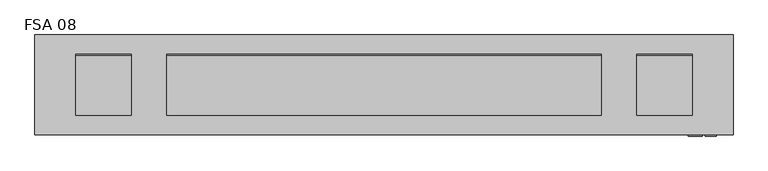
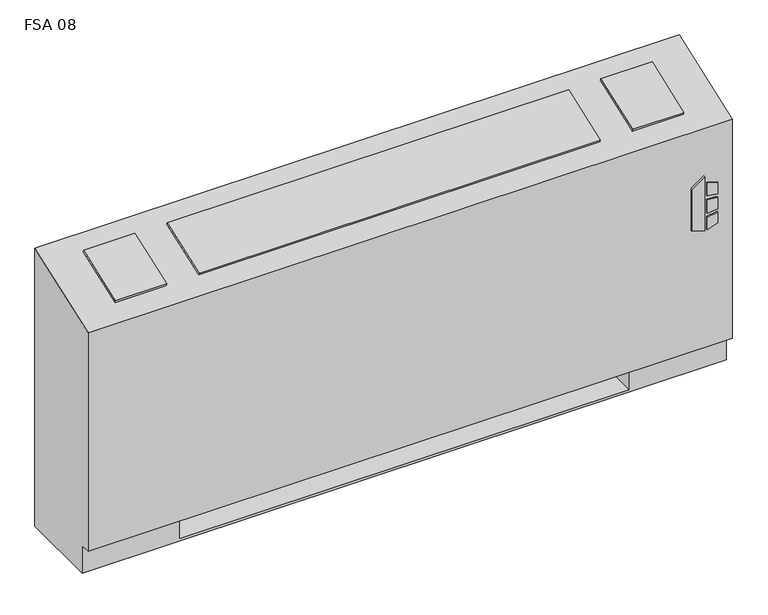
"""IFC4 building model written with IfcOpenShell, lengths in millimetres: proxy geometry, Vertical_Fan_Coil_Unit_-_FSA_-_IEC_-_4-Pipe_TS-FR_RH_2022 : FSA 08."""

import ifcopenshell
import ifcopenshell.guid

model = None  # the IFC model being written
_history = None  # IfcOwnerHistory: only IFC2X3 demands one
_inside = {}  # id of a spatial element -> (the spatial element, [elements in it])
_under = {}  # id of a project, library or spatial element -> (it, [spatial elements below it])
_declared = {}  # id of a project -> (the project, [libraries it declares])
_typed = {}  # id of a type object -> (the type object, [elements of that type])
_made_of = {}  # id of a material, layer set ... -> (it, [elements and type objects made of it])


def new_model(schema):
    """Start an empty IFC model of exactly this schema.

    Asked for "IFC4X3", IfcOpenShell would pick the latest addendum, in which some entities
    have other attributes; the version numbers below select the first issue.
    IFC2X3 requires an IfcOwnerHistory on every rooted entity: one is made here for all.
    """
    global model, _history
    if schema == "IFC4X3":
        model = ifcopenshell.file(schema_version=(4, 3, 0, 0))
    else:
        model = ifcopenshell.file(schema=schema)
    _inside.clear()
    _under.clear()
    _declared.clear()
    _typed.clear()
    _made_of.clear()
    _history = None
    if model.schema == "IFC2X3":
        org = make("IfcOrganization", Name="unknown")
        user = make(
            "IfcPersonAndOrganization",
            ThePerson=make("IfcPerson", FamilyName="unknown"),
            TheOrganization=org,
        )
        app = make(
            "IfcApplication",
            ApplicationDeveloper=org,
            Version="unknown",
            ApplicationFullName="unknown",
            ApplicationIdentifier="unknown",
        )
        _history = make(
            "IfcOwnerHistory",
            OwningUser=user,
            OwningApplication=app,
            ChangeAction="ADDED",
            CreationDate=0,
        )
    return model


def make(cls, **values):
    """One entity of the class cls with the attributes given. An attribute that is None is left unset."""
    return model.create_entity(
        cls, **{name: value for name, value in values.items() if value is not None}
    )


def rooted(cls, **values):
    """An entity with a GlobalId (a new one), such as an element, a storey or a relation."""
    return make(cls, GlobalId=ifcopenshell.guid.new(), OwnerHistory=_history, **values)


def si_unit(unit_type, name, prefix=None):
    """IfcSIUnit, for example si_unit("LENGTHUNIT", "METRE", prefix="MILLI")."""
    return make("IfcSIUnit", UnitType=unit_type, Prefix=prefix, Name=name)


def assignment(units):
    """IfcUnitAssignment: the units of a project."""
    return None if units is None else make("IfcUnitAssignment", Units=units)


def point(xyz):
    """IfcCartesianPoint."""
    return None if xyz is None else make("IfcCartesianPoint", Coordinates=xyz)


def direction(xyz):
    """IfcDirection."""
    return None if xyz is None else make("IfcDirection", DirectionRatios=xyz)


def frame(location, z_axis=None, x_axis=None):
    """IfcAxis2Placement3D, a coordinate frame: its origin and axes. An axis left out is left unset."""
    return make(
        "IfcAxis2Placement3D",
        Location=point(location),
        Axis=direction(z_axis),
        RefDirection=direction(x_axis),
    )


def frame_2d(location, x_axis=None):
    """IfcAxis2Placement2D, a coordinate frame in the plane: its origin and x axis."""
    return make(
        "IfcAxis2Placement2D", Location=point(location), RefDirection=direction(x_axis)
    )


def origin():
    """The frame at (0, 0, 0) with its axes left unset."""
    return frame((0.0, 0.0, 0.0))


def place(relative_to, where):
    """IfcLocalPlacement: puts the frame where relative to a parent placement (None: the world)."""
    return make(
        "IfcLocalPlacement", PlacementRelTo=relative_to, RelativePlacement=where
    )


def context(
    kind, dimensions, precision=None, world=None, true_north=None, identifier=None
):
    """IfcGeometricRepresentationContext, for example the 3D "Model" context."""
    return make(
        "IfcGeometricRepresentationContext",
        ContextIdentifier=identifier,
        ContextType=kind,
        CoordinateSpaceDimension=dimensions,
        Precision=precision,
        WorldCoordinateSystem=world,
        TrueNorth=true_north,
    )


def project(units=None, contexts=None):
    """IfcProject with its units and contexts."""
    return rooted(
        "IfcProject",
        Name="project",
        RepresentationContexts=contexts,
        UnitsInContext=assignment(units),
    )


def spatial(cls, under=None, at=None, **own):
    """A site, building, storey or space (cls), placed at a placement, below another one or the project."""
    s = rooted(cls, ObjectPlacement=at, **own)
    if under is not None:
        _under.setdefault(under.id(), (under, []))[1].append(s)
    return s


def polyline(points):
    """IfcPolyline through the points."""
    return make("IfcPolyline", Points=[point(p) for p in points])


def circle_curve(where, radius):
    """IfcCircle in the frame where."""
    return make("IfcCircle", Position=where, Radius=radius)


def trimmed(basis, trim1, trim2, sense, master):
    """IfcTrimmedCurve: the piece of a basis curve between two trims."""
    return make(
        "IfcTrimmedCurve",
        BasisCurve=basis,
        Trim1=trim1,
        Trim2=trim2,
        SenseAgreement=sense,
        MasterRepresentation=master,
    )


def segment(curve, same_sense, transition):
    """IfcCompositeCurveSegment."""
    return make(
        "IfcCompositeCurveSegment",
        Transition=transition,
        SameSense=same_sense,
        ParentCurve=curve,
    )


def composite_curve(segments, self_intersect=None):
    """IfcCompositeCurve: segments joined end to end."""
    return make("IfcCompositeCurve", Segments=segments, SelfIntersect=self_intersect)


def outline(outer, holes=None, kind="AREA"):
    """IfcArbitraryClosedProfileDef: a profile drawn as a closed curve; with holes, ...WithVoids."""
    if holes is None:
        return make("IfcArbitraryClosedProfileDef", ProfileType=kind, OuterCurve=outer)
    return make(
        "IfcArbitraryProfileDefWithVoids",
        ProfileType=kind,
        OuterCurve=outer,
        InnerCurves=holes,
    )


def extrude(swept, where, along, depth):
    """IfcExtrudedAreaSolid: the profile swept, set in the frame where, extruded along a direction by depth."""
    return make(
        "IfcExtrudedAreaSolid",
        SweptArea=swept,
        Position=where,
        ExtrudedDirection=direction(along),
        Depth=depth,
    )


def shape(context_of_items, identifier, shape_type, items):
    """IfcShapeRepresentation: the items that make up one representation, for example the "Body"."""
    return make(
        "IfcShapeRepresentation",
        ContextOfItems=context_of_items,
        RepresentationIdentifier=identifier,
        RepresentationType=shape_type,
        Items=items,
    )


def source(mapping_origin, context_of_items, identifier, shape_type, items):
    """IfcRepresentationMap: a shape defined once, which mapped items show again and again."""
    return make(
        "IfcRepresentationMap",
        MappingOrigin=mapping_origin,
        MappedRepresentation=shape(context_of_items, identifier, shape_type, items),
    )


def transform(
    local_origin,
    x_axis=None,
    y_axis=None,
    z_axis=None,
    scale=None,
    scale2=None,
    scale3=None,
    uniform=True,
):
    """IfcCartesianTransformationOperator3D, or its non-uniform kind. x_axis, y_axis, z_axis: its Axis1, 2, 3."""
    if uniform:
        return make(
            "IfcCartesianTransformationOperator3D",
            Axis1=direction(x_axis),
            Axis2=direction(y_axis),
            LocalOrigin=point(local_origin),
            Scale=scale,
            Axis3=direction(z_axis),
        )
    return make(
        "IfcCartesianTransformationOperator3DnonUniform",
        Axis1=direction(x_axis),
        Axis2=direction(y_axis),
        LocalOrigin=point(local_origin),
        Scale=scale,
        Axis3=direction(z_axis),
        Scale2=scale2,
        Scale3=scale3,
    )


def mapped(mapping_source, mapping_target):
    """IfcMappedItem: shows the shape of a source again, moved by a transform."""
    return make(
        "IfcMappedItem", MappingSource=mapping_source, MappingTarget=mapping_target
    )


def made_of(thing, what):
    """Note that an element or type object is made of a material, layer set ...; save() writes the relation."""
    if what is not None:
        _made_of.setdefault(what.id(), (what, []))[1].append(thing)
    return thing


def element(
    cls,
    number,
    at=None,
    inside=None,
    cuts=None,
    type_object=None,
    material=None,
    context=None,
    identifier="Body",
    shape_type=None,
    held_by="IfcProductDefinitionShape",
    body=None,
    shapes=None,
    **own,
):
    """One element of the class cls, such as IfcWall. Its Tag is "e" and its number.

    at: its placement. inside: the storey or other place that contains it. cuts: it is an
    opening in that element (IfcRelVoidsElement). A single representation is given by context,
    identifier, shape_type and body (its items); several are given by shapes. held_by: the class
    of the entity that holds the representations. save() writes the other relations.
    """
    e = rooted(cls, Tag="e%d" % number, ObjectPlacement=at, **own)
    if body is not None:
        shapes = [shape(context, identifier, shape_type, body)]
    if shapes is not None:
        e.Representation = make(held_by, Representations=shapes)
    if inside is not None:
        _inside.setdefault(inside.id(), (inside, []))[1].append(e)
    if cuts is not None:
        rooted(
            "IfcRelVoidsElement", RelatingBuildingElement=cuts, RelatedOpeningElement=e
        )
    if type_object is not None:
        _typed.setdefault(type_object.id(), (type_object, []))[1].append(e)
    return made_of(e, material)


def aggregate(whole, parts):
    """IfcRelAggregates: a whole, such as a stair, and the parts it consists of."""
    return rooted("IfcRelAggregates", RelatingObject=whole, RelatedObjects=parts)


def save(model, path):
    """Write the relations noted so far, then the file.

    IfcRelAggregates (storeys below a building ...), IfcRelContainedInSpatialStructure (elements
    in a storey), IfcRelDefinesByType, IfcRelAssociatesMaterial and IfcRelDeclares: one each for
    every whole, place, type object, material and project.
    """
    for whole, parts in _under.values():
        aggregate(whole, parts)
    for where, things in _inside.values():
        rooted(
            "IfcRelContainedInSpatialStructure",
            RelatedElements=things,
            RelatingStructure=where,
        )
    for kind, things in _typed.values():
        rooted("IfcRelDefinesByType", RelatedObjects=things, RelatingType=kind)
    for what, things in _made_of.values():
        rooted("IfcRelAssociatesMaterial", RelatedObjects=things, RelatingMaterial=what)
    for by, libraries in _declared.values():
        rooted("IfcRelDeclares", RelatingContext=by, RelatedDefinitions=libraries)
    model.write(path)


def plane_surface(at):
    """IfcPlane: the flat surface through the origin of the frame at, square to its z axis."""
    return make("IfcPlane", Position=at)


def revolved_surface(curve, axis_point, axis_direction):
    """IfcSurfaceOfRevolution: the curve turned about the line through axis_point along axis_direction."""
    return make(
        "IfcSurfaceOfRevolution",
        SweptCurve=make("IfcArbitraryOpenProfileDef", ProfileType="CURVE", Curve=curve),
        AxisPosition=make("IfcAxis1Placement", Location=point(axis_point), Axis=direction(axis_direction)),
    )


def advanced_brep(points, edges, surfaces, faces):
    """IfcAdvancedBrep: a solid bounded by faces that lie on surfaces and meet in shared edges.

    An edge is (start, end): straight between two places in points (the first is 0);
    or (start, end, curve); or (start, end, curve, False) where it runs against its curve.
    A face is (place in surfaces, loops), or (place, loops, False) where it looks against
    its surface's normal. A loop lists edges by number (the first is 1), with a minus sign
    where the edge is run from its end to its start. The first loop is the outer one.
    """
    corners = [point(p) for p in points]
    vertices = [make("IfcVertexPoint", VertexGeometry=c) for c in corners]
    made = []
    for start, end, *more in edges:
        made.append(
            make(
                "IfcEdgeCurve",
                EdgeStart=vertices[start],
                EdgeEnd=vertices[end],
                EdgeGeometry=more[0] if more else make("IfcPolyline", Points=[corners[start], corners[end]]),
                SameSense=more[1] if len(more) > 1 else True,
            )
        )
    hull = []
    for where, loops, *sense in faces:
        bounds = []
        for j, loop in enumerate(loops):
            ring = [make("IfcOrientedEdge", EdgeElement=made[abs(k) - 1], Orientation=k > 0) for k in loop]
            bounds.append(
                make(
                    "IfcFaceOuterBound" if j == 0 else "IfcFaceBound",
                    Bound=make("IfcEdgeLoop", EdgeList=ring),
                    Orientation=True,
                )
            )
        hull.append(make("IfcAdvancedFace", Bounds=bounds, FaceSurface=surfaces[where], SameSense=sense[0] if sense else True))
    return make("IfcAdvancedBrep", Outer=make("IfcClosedShell", CfsFaces=hull))


def fsa_08_1c3113d7(model_context):
    return source(origin(), model_context, "Body", "SolidModel", [
        extrude(outline(polyline([(391.6086829, 849.3868862), (381.6606126, 881.5602728), (523.831537, 881.5602728), (500.8095309, 849.3868862), (391.6086829, 849.3868862)])), frame((0.0, 12.7, 0.0), z_axis=(0.0, 1.0, 0.0), x_axis=(0.0, 0.0, 1.0)), (0.0, 0.0, 1.0), 3.175),
        extrude(outline(polyline([(470.6079683, 888.3186058), (467.4055757, 914.4), (496.6344168, 914.4), (504.6988318, 888.3186058), (470.6079683, 888.3186058)])), frame((0.0, 12.7, 0.0), z_axis=(0.0, 1.0, 0.0), x_axis=(0.0, 0.0, 1.0)), (0.0, 0.0, 1.0), 3.175),
        extrude(outline(polyline([(418.7444414, 914.4), (415.0789404, 888.3186058), (381.6606126, 888.3186058), (390.2948498, 914.4), (418.7444414, 914.4)])), frame((0.0, 12.7, 0.0), z_axis=(0.0, 1.0, 0.0), x_axis=(0.0, 0.0, 1.0)), (0.0, 0.0, 1.0), 3.175),
        extrude(outline(polyline([(458.0596028, 914.4), (460.3414292, 888.3186058), (424.4038806, 888.3186058), (427.1451456, 914.4), (458.0596028, 914.4)])), frame((0.0, 12.7, 0.0), z_axis=(0.0, 1.0, 0.0), x_axis=(0.0, 0.0, 1.0)), (0.0, 0.0, 1.0), 3.175),
        extrude(outline(polyline([(-527.05, 81.534), (-527.05, 223.266), (-406.4, 223.266), (-406.4, 81.534), (-527.05, 81.534)])), frame((0.0, 0.0, 327.025), z_axis=(0.0, 0.0, 1.0), x_axis=(1.0, 0.0, 0.0)), (0.0, 0.0, 1.0), 260.35),
        extrude(outline(composite_curve([segment(trimmed(circle_curve(frame_2d((774.7, 130.175)), 9.525), [point((765.175, 130.175))], [point((784.225, 130.175))], False, "CARTESIAN"), True, "CONTINUOUS"), segment(trimmed(circle_curve(frame_2d((774.7, 130.175)), 9.525), [point((784.225, 130.175))], [point((765.175, 130.175))], False, "CARTESIAN"), True, "CONTINUOUS")], self_intersect=False)), frame((0.0, 0.0, 101.6), z_axis=(0.0, 0.0, 1.0), x_axis=(1.0, 0.0, 0.0)), (0.0, 0.0, 1.0), 25.4),
        extrude(outline(polyline([(876.3, 196.85), (876.3, 63.5), (711.2, 63.5), (711.2, 196.85), (876.3, 196.85)])), frame((0.0, 0.0, 127.0), z_axis=(0.0, 0.0, 1.0), x_axis=(1.0, 0.0, 0.0)), (0.0, 0.0, 1.0), 50.8),
        extrude(outline(polyline([(0.0, -146.0500001), (0.0, 0.0), (127.0, 0.0), (127.0, -146.0500001), (0.0, -146.0500001)])), frame((-553.593, 200.4217127, 714.3418685), z_axis=(0.0, -0.3396444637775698, 0.9405538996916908), x_axis=(1.0, 0.0, 0.0)), (0.0, 0.0, 1.0), 6.35),
        extrude(outline(polyline([(0.0, -146.0500001), (0.0, 0.0), (996.95, 0.0), (996.95, -146.0500001), (0.0, -146.0500001)])), frame((650.875, 63.0538156, 664.7367945), z_axis=(0.0, -0.33964446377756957, 0.9405538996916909), x_axis=(-1.0, 0.0, 0.0)), (0.0, 0.0, 1.0), 6.35),
        extrude(outline(polyline([(0.0, -146.0500001), (0.0, 0.0), (127.0, 0.0), (127.0, -146.0500001), (0.0, -146.0500001)])), frame((858.393, 63.0538156, 664.7367945), z_axis=(0.0, -0.3396444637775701, 0.9405538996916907), x_axis=(-1.0, 0.0, 0.0)), (0.0, 0.0, 1.0), 6.35),
        extrude(outline(composite_curve([segment(trimmed(circle_curve(frame_2d((109.0168, 457.2)), 7.9375), [point((109.0168, 465.1375))], [point((109.0168, 449.2625))], False, "CARTESIAN"), True, "CONTINUOUS"), segment(trimmed(circle_curve(frame_2d((109.0168, 457.2)), 7.9375), [point((109.0168, 449.2625))], [point((109.0168, 465.1375))], False, "CARTESIAN"), True, "CONTINUOUS")], self_intersect=False)), frame((711.2, 0.0, 0.0), z_axis=(1.0, 0.0, 0.0), x_axis=(0.0, 1.0, 0.0)), (0.0, 0.0, 1.0), 50.8),
        extrude(outline(composite_curve([segment(trimmed(circle_curve(frame_2d((172.085, 460.0194)), 7.9375), [point((172.085, 467.9569))], [point((172.085, 452.0819))], False, "CARTESIAN"), True, "CONTINUOUS"), segment(trimmed(circle_curve(frame_2d((172.085, 460.0194)), 7.9375), [point((172.085, 452.0819))], [point((172.085, 467.9569))], False, "CARTESIAN"), True, "CONTINUOUS")], self_intersect=False)), frame((711.2, 0.0, 0.0), z_axis=(1.0, 0.0, 0.0), x_axis=(0.0, 1.0, 0.0)), (0.0, 0.0, 1.0), 50.8),
        extrude(outline(composite_curve([segment(trimmed(circle_curve(frame_2d((130.175, 554.99)), 7.9502), [point((130.175, 562.9402))], [point((130.175, 547.0398))], False, "CARTESIAN"), True, "CONTINUOUS"), segment(trimmed(circle_curve(frame_2d((130.175, 554.99)), 7.9502), [point((130.175, 547.0398))], [point((130.175, 562.9402))], False, "CARTESIAN"), True, "CONTINUOUS")], self_intersect=False)), frame((711.2, 0.0, 0.0), z_axis=(1.0, 0.0, 0.0), x_axis=(0.0, 1.0, 0.0)), (0.0, 0.0, 1.0), 50.8),
        extrude(outline(composite_curve([segment(trimmed(circle_curve(frame_2d((53.975, 416.56)), 7.9502), [point((53.975, 424.5102))], [point((53.975, 408.6098))], False, "CARTESIAN"), True, "CONTINUOUS"), segment(trimmed(circle_curve(frame_2d((53.975, 416.56)), 7.9502), [point((53.975, 408.6098))], [point((53.975, 424.5102))], False, "CARTESIAN"), True, "CONTINUOUS")], self_intersect=False)), frame((711.2, 0.0, 0.0), z_axis=(1.0, 0.0, 0.0), x_axis=(0.0, 1.0, 0.0)), (0.0, 0.0, 1.0), 50.8),
        advanced_brep(
        [(-647.7, 244.475, 0.0), (952.5, 244.475, 0.0), (952.5, 41.275, 0.0), (-647.7, 41.275, 0.0), (-647.7, 244.475, 730.25), (952.5, 244.475, 730.25), (711.2, 244.475, 73.025), (939.8, 244.475, 73.025), (939.8, 244.475, 654.05), (711.2, 244.475, 654.05), (711.2, 244.475, 414.8650565), (739.775, 244.475, 414.8650565), (739.775, 244.475, 385.2349435), (711.2, 244.475, 385.2349435), (711.2, 244.475, 287.3375), (739.775, 244.475, 287.3375), (739.775, 244.475, 258.7625), (711.2, 244.475, 258.7625), (711.2, 244.475, 141.2875), (739.775, 244.475, 141.2875), (739.775, 244.475, 112.7125), (711.2, 244.475, 112.7125), (-406.4, 244.475, 654.05), (-635.0, 244.475, 654.05), (-635.0, 244.475, 73.025), (-406.4, 244.475, 73.025), (-406.4, 244.475, 112.7125), (-434.975, 244.475, 112.7125), (-434.975, 244.475, 141.2875), (-406.4, 244.475, 141.2875), (-406.4, 244.475, 258.7625), (-434.975, 244.475, 258.7625), (-434.975, 244.475, 287.3375), (-406.4, 244.475, 287.3375), (-406.4, 244.475, 385.2349435), (-434.975, 244.475, 385.2349435), (-434.975, 244.475, 414.8650565), (-406.4, 244.475, 414.8650565), (729.4626, 244.475, 127.0), (718.3374, 244.475, 127.0), (729.4626, 244.475, 400.05), (718.3374, 244.475, 400.05), (729.4626, 244.475, 273.05), (718.3374, 244.475, 273.05), (-413.5374, 244.475, 127.0), (-424.6626, 244.475, 127.0), (-413.5374, 244.475, 273.05), (-424.6626, 244.475, 273.05), (-413.5374, 244.475, 400.05), (-424.6626, 244.475, 400.05), (-647.7, 41.275, 73.025), (-647.7, 15.875, 73.025), (-647.7, 15.875, 647.7), (952.5, 15.875, 73.025), (952.5, 15.875, 647.7), (952.5, 41.275, 73.025), (-406.4, 41.275, 73.025), (-406.4, 225.425, 73.025), (711.2, 225.425, 73.025), (711.2, 41.275, 73.025), (711.2, 41.275, 6.35), (-406.4, 41.275, 6.35), (711.2, 41.275, 654.05), (939.8, 41.275, 654.05), (939.8, 41.275, 73.025), (711.2, 41.275, 73.025), (-406.4, 41.275, 654.05), (-406.4, 41.275, 73.025), (-635.0, 41.275, 73.025), (-635.0, 41.275, 654.05), (711.2, 225.425, 73.025), (711.2, 238.125, 112.7125), (711.2, 238.125, 141.2875), (711.2, 238.125, 258.7625), (711.2, 238.125, 287.3375), (711.2, 238.125, 385.2349435), (711.2, 238.125, 414.8650565), (-406.4, 225.425, 73.025), (-406.4, 238.125, 414.8650565), (-406.4, 238.125, 385.2349435), (-406.4, 238.125, 287.3375), (-406.4, 238.125, 258.7625), (-406.4, 238.125, 141.2875), (-406.4, 238.125, 112.7125), (-406.4, 225.425, 6.35), (711.2, 225.425, 6.35), (739.775, 238.125, 112.7125), (739.775, 238.125, 141.2875), (718.3374, 238.125, 127.0), (729.4626, 238.125, 127.0), (739.775, 238.125, 258.7625), (739.775, 238.125, 287.3375), (718.3374, 238.125, 273.05), (729.4626, 238.125, 273.05), (739.775, 238.125, 385.2349435), (739.775, 238.125, 414.8650565), (718.3374, 238.125, 400.05), (729.4626, 238.125, 400.05), (-434.975, 238.125, 141.2875), (-434.975, 238.125, 112.7125), (-424.6626, 238.125, 127.0), (-413.5374, 238.125, 127.0), (-434.975, 238.125, 287.3375), (-434.975, 238.125, 258.7625), (-424.6626, 238.125, 273.05), (-413.5374, 238.125, 273.05), (-434.975, 238.125, 414.8650565), (-434.975, 238.125, 385.2349435), (-424.6626, 238.125, 400.05), (-413.5374, 238.125, 400.05)],
        [
            (0, 1),
            (1, 2),
            (2, 3),
            (3, 0),
            (0, 4),
            (4, 5),
            (5, 1),
            (6, 7),
            (7, 8),
            (8, 9),
            (9, 10),
            (10, 11),
            (11, 12),
            (12, 13),
            (13, 14),
            (14, 15),
            (15, 16),
            (16, 17),
            (17, 18),
            (18, 19),
            (19, 20),
            (20, 21),
            (21, 6),
            (22, 23),
            (23, 24),
            (24, 25),
            (25, 26),
            (26, 27),
            (27, 28),
            (28, 29),
            (29, 30),
            (30, 31),
            (31, 32),
            (32, 33),
            (33, 34),
            (34, 35),
            (35, 36),
            (36, 37),
            (37, 22),
            (38, 39, circle_curve(frame((723.9, 244.475, 127.0), z_axis=(0.0, -1.0, 0.0), x_axis=(-1.0, 0.0, 0.0)), 5.5626)),
            (39, 38, circle_curve(frame((723.9, 244.475, 127.0), z_axis=(0.0, -1.0, 0.0), x_axis=(-1.0, 0.0, 0.0)), 5.5626)),
            (40, 41, circle_curve(frame((723.9, 244.475, 400.05), z_axis=(0.0, -1.0, 0.0), x_axis=(-1.0, 0.0, 0.0)), 5.5626)),
            (41, 40, circle_curve(frame((723.9, 244.475, 400.05), z_axis=(0.0, -1.0, 0.0), x_axis=(-1.0, 0.0, 0.0)), 5.5626)),
            (42, 43, circle_curve(frame((723.9, 244.475, 273.05), z_axis=(0.0, -1.0, 0.0), x_axis=(-1.0, 0.0, 0.0)), 5.5626)),
            (43, 42, circle_curve(frame((723.9, 244.475, 273.05), z_axis=(0.0, -1.0, 0.0), x_axis=(-1.0, 0.0, 0.0)), 5.5626)),
            (44, 45, circle_curve(frame((-419.1, 244.475, 127.0), z_axis=(0.0, -1.0, 0.0), x_axis=(-1.0, 0.0, 0.0)), 5.5626)),
            (45, 44, circle_curve(frame((-419.1, 244.475, 127.0), z_axis=(0.0, -1.0, 0.0), x_axis=(-1.0, 0.0, 0.0)), 5.5626)),
            (46, 47, circle_curve(frame((-419.1, 244.475, 273.05), z_axis=(0.0, -1.0, 0.0), x_axis=(-1.0, 0.0, 0.0)), 5.5626)),
            (47, 46, circle_curve(frame((-419.1, 244.475, 273.05), z_axis=(0.0, -1.0, 0.0), x_axis=(-1.0, 0.0, 0.0)), 5.5626)),
            (48, 49, circle_curve(frame((-419.1, 244.475, 400.05), z_axis=(0.0, -1.0, 0.0), x_axis=(-1.0, 0.0, 0.0)), 5.5626)),
            (49, 48, circle_curve(frame((-419.1, 244.475, 400.05), z_axis=(0.0, -1.0, 0.0), x_axis=(-1.0, 0.0, 0.0)), 5.5626)),
            (3, 50),
            (50, 51),
            (51, 52),
            (52, 4),
            (51, 53),
            (53, 54),
            (54, 52),
            (5, 54),
            (53, 55),
            (55, 2),
            (50, 56),
            (56, 57),
            (57, 58),
            (58, 59),
            (59, 55),
            (59, 60),
            (60, 61),
            (61, 56),
            (62, 63),
            (63, 64),
            (64, 65),
            (65, 62),
            (66, 67),
            (67, 68),
            (68, 69),
            (69, 66),
            (65, 70),
            (70, 6),
            (21, 71),
            (71, 72),
            (72, 18),
            (17, 73),
            (73, 74),
            (74, 14),
            (13, 75),
            (75, 76),
            (76, 10),
            (9, 62),
            (64, 7),
            (63, 8),
            (69, 23),
            (22, 66),
            (68, 24),
            (67, 77),
            (77, 25),
            (37, 78),
            (78, 79),
            (79, 34),
            (33, 80),
            (80, 81),
            (81, 30),
            (29, 82),
            (82, 83),
            (83, 26),
            (57, 84),
            (84, 85),
            (85, 58),
            (85, 60),
            (84, 61),
            (71, 86),
            (86, 87),
            (87, 72),
            (88, 89, circle_curve(frame((723.9, 238.125, 127.0), z_axis=(0.0, 1.0, 0.0), x_axis=(-1.0, 0.0, 0.0)), 5.5626)),
            (89, 88, circle_curve(frame((723.9, 238.125, 127.0), z_axis=(0.0, 1.0, 0.0), x_axis=(-1.0, 0.0, 0.0)), 5.5626)),
            (73, 90),
            (90, 91),
            (91, 74),
            (92, 93, circle_curve(frame((723.9, 238.125, 273.05), z_axis=(0.0, 1.0, 0.0), x_axis=(-1.0, 0.0, 0.0)), 5.5626)),
            (93, 92, circle_curve(frame((723.9, 238.125, 273.05), z_axis=(0.0, 1.0, 0.0), x_axis=(-1.0, 0.0, 0.0)), 5.5626)),
            (75, 94),
            (94, 95),
            (95, 76),
            (96, 97, circle_curve(frame((723.9, 238.125, 400.05), z_axis=(0.0, 1.0, 0.0), x_axis=(-1.0, 0.0, 0.0)), 5.5626)),
            (97, 96, circle_curve(frame((723.9, 238.125, 400.05), z_axis=(0.0, 1.0, 0.0), x_axis=(-1.0, 0.0, 0.0)), 5.5626)),
            (98, 99),
            (99, 83),
            (82, 98),
            (100, 101, circle_curve(frame((-419.1, 238.125, 127.0), z_axis=(0.0, 1.0, 0.0), x_axis=(-1.0, 0.0, 0.0)), 5.5626)),
            (101, 100, circle_curve(frame((-419.1, 238.125, 127.0), z_axis=(0.0, 1.0, 0.0), x_axis=(-1.0, 0.0, 0.0)), 5.5626)),
            (102, 103),
            (103, 81),
            (80, 102),
            (104, 105, circle_curve(frame((-419.1, 238.125, 273.05), z_axis=(0.0, 1.0, 0.0), x_axis=(-1.0, 0.0, 0.0)), 5.5626)),
            (105, 104, circle_curve(frame((-419.1, 238.125, 273.05), z_axis=(0.0, 1.0, 0.0), x_axis=(-1.0, 0.0, 0.0)), 5.5626)),
            (106, 107),
            (107, 79),
            (78, 106),
            (108, 109, circle_curve(frame((-419.1, 238.125, 400.05), z_axis=(0.0, 1.0, 0.0), x_axis=(-1.0, 0.0, 0.0)), 5.5626)),
            (109, 108, circle_curve(frame((-419.1, 238.125, 400.05), z_axis=(0.0, 1.0, 0.0), x_axis=(-1.0, 0.0, 0.0)), 5.5626)),
            (87, 19),
            (86, 20),
            (91, 15),
            (90, 16),
            (95, 11),
            (94, 12),
            (28, 98),
            (99, 27),
            (32, 102),
            (103, 31),
            (36, 106),
            (107, 35),
            (88, 39),
            (38, 89),
            (96, 41),
            (40, 97),
            (92, 43),
            (42, 93),
            (100, 45),
            (44, 101),
            (104, 47),
            (46, 105),
            (108, 49),
            (48, 109),
        ],
        [
            plane_surface(frame((-647.7, 244.475, 0.0), z_axis=(0.0, 0.0, -1.0), x_axis=(1.0, 0.0, 0.0))),
            plane_surface(frame((952.5, 244.475, 730.25), z_axis=(0.0, 1.0, 0.0), x_axis=(0.0, 0.0, -1.0))),
            plane_surface(frame((-647.7, 244.475, 730.25), z_axis=(-1.0, 0.0, 0.0), x_axis=(0.0, 0.0, -1.0))),
            plane_surface(frame((-647.7, 15.875, 730.25), z_axis=(0.0, -1.0, 0.0), x_axis=(0.0, 0.0, -1.0))),
            plane_surface(frame((952.5, 15.875, 730.25), z_axis=(1.0, 0.0, 0.0), x_axis=(0.0, 0.0, -1.0))),
            plane_surface(frame((-647.7, 15.875, 73.025), z_axis=(0.0, 0.0, -1.0), x_axis=(1.0, 0.0, 0.0))),
            plane_surface(frame((-647.7, 41.275, 73.025), z_axis=(0.0, -1.0, 0.0), x_axis=(1.0, 0.0, 0.0))),
            plane_surface(frame((711.2, 41.275, 654.05), z_axis=(0.0, 1.0, 0.0), x_axis=(0.0, 0.0, -1.0))),
            plane_surface(frame((711.2, 41.275, 654.05), z_axis=(1.0, 0.0, 0.0), x_axis=(0.0, 1.0, 0.0))),
            plane_surface(frame((711.2, 41.275, 73.025), z_axis=(0.0, 0.0, 1.0), x_axis=(0.0, 1.0, 0.0))),
            plane_surface(frame((939.8, 41.275, 73.025), z_axis=(-1.0, 0.0, 0.0), x_axis=(0.0, 1.0, 0.0))),
            plane_surface(frame((939.8, 41.275, 654.05), z_axis=(0.0, 0.0, -1.0), x_axis=(0.0, 1.0, 0.0))),
            plane_surface(frame((-406.4, 41.275, 654.05), z_axis=(0.0, 0.0, -1.0), x_axis=(0.0, 1.0, 0.0))),
            plane_surface(frame((-635.0, 41.275, 654.05), z_axis=(1.0, 0.0, 0.0), x_axis=(0.0, 1.0, 0.0))),
            plane_surface(frame((-635.0, 41.275, 73.025), z_axis=(0.0, 0.0, 1.0), x_axis=(0.0, 1.0, 0.0))),
            plane_surface(frame((-406.4, 41.275, 73.025), z_axis=(-1.0, 0.0, 0.0), x_axis=(0.0, 1.0, 0.0))),
            plane_surface(frame((711.2, 225.425, 73.025), z_axis=(0.0, -1.0, 0.0), x_axis=(0.0, 0.0, -1.0))),
            plane_surface(frame((711.2, 225.425, 73.025), z_axis=(-1.0, 0.0, 0.0), x_axis=(0.0, -1.0, 0.0))),
            plane_surface(frame((711.2, 225.425, 6.35), z_axis=(0.0, 0.0, 1.0), x_axis=(0.0, -1.0, 0.0))),
            plane_surface(frame((-406.4, 225.425, 6.35), z_axis=(1.0, 0.0, 0.0), x_axis=(0.0, -1.0, 0.0))),
            plane_surface(frame((739.775, 238.125, 141.2875), z_axis=(0.0, -1.0, 0.0), x_axis=(-1.0, 0.0, 0.0))),
            plane_surface(frame((711.2, 244.475, 141.2875), z_axis=(0.0, 0.0, 1.0), x_axis=(0.0, -1.0, 0.0))),
            plane_surface(frame((739.775, 244.475, 141.2875), z_axis=(1.0, 0.0, 0.0), x_axis=(0.0, -1.0, 0.0))),
            plane_surface(frame((739.775, 244.475, 112.7125), z_axis=(0.0, 0.0, -1.0), x_axis=(0.0, -1.0, 0.0))),
            plane_surface(frame((711.2, 244.475, 287.3375), z_axis=(0.0, 0.0, 1.0), x_axis=(0.0, -1.0, 0.0))),
            plane_surface(frame((739.775, 244.475, 287.3375), z_axis=(1.0, 0.0, 0.0), x_axis=(0.0, -1.0, 0.0))),
            plane_surface(frame((739.775, 244.475, 258.7625), z_axis=(0.0, 0.0, -1.0), x_axis=(0.0, -1.0, 0.0))),
            plane_surface(frame((711.2, 244.475, 414.8650565), z_axis=(0.0, 0.0, 1.0), x_axis=(0.0, -1.0, 0.0))),
            plane_surface(frame((739.775, 244.475, 414.8650565), z_axis=(1.0, 0.0, 0.0), x_axis=(0.0, -1.0, 0.0))),
            plane_surface(frame((739.775, 244.475, 385.2349435), z_axis=(0.0, 0.0, -1.0), x_axis=(0.0, -1.0, 0.0))),
            plane_surface(frame((-434.975, 244.475, 141.2875), z_axis=(0.0, 0.0, 1.0), x_axis=(0.0, -1.0, 0.0))),
            plane_surface(frame((-406.4, 244.475, 112.7125), z_axis=(0.0, 0.0, -1.0), x_axis=(0.0, -1.0, 0.0))),
            plane_surface(frame((-434.975, 244.475, 112.7125), z_axis=(-1.0, 0.0, 0.0), x_axis=(0.0, -1.0, 0.0))),
            plane_surface(frame((-434.975, 244.475, 287.3375), z_axis=(0.0, 0.0, 1.0), x_axis=(0.0, -1.0, 0.0))),
            plane_surface(frame((-406.4, 244.475, 258.7625), z_axis=(0.0, 0.0, -1.0), x_axis=(0.0, -1.0, 0.0))),
            plane_surface(frame((-434.975, 244.475, 258.7625), z_axis=(-1.0, 0.0, 0.0), x_axis=(0.0, -1.0, 0.0))),
            plane_surface(frame((-434.975, 244.475, 414.8650565), z_axis=(0.0, 0.0, 1.0), x_axis=(0.0, -1.0, 0.0))),
            plane_surface(frame((-406.4, 244.475, 385.2349435), z_axis=(0.0, 0.0, -1.0), x_axis=(0.0, -1.0, 0.0))),
            plane_surface(frame((-434.975, 244.475, 385.2349435), z_axis=(-1.0, 0.0, 0.0), x_axis=(0.0, -1.0, 0.0))),
            revolved_surface(polyline([(718.3374, 238.125, 127.0), (718.3374, 244.475, 127.0)]), (723.9, 244.475, 127.0), (0.0, -1.0, 0.0)),
            revolved_surface(polyline([(718.3374, 238.125, 400.05), (718.3374, 244.475, 400.05)]), (723.9, 244.475, 400.05), (0.0, -1.0, 0.0)),
            revolved_surface(polyline([(718.3374, 238.125, 273.05), (718.3374, 244.475, 273.05)]), (723.9, 244.475, 273.05), (0.0, -1.0, 0.0)),
            revolved_surface(polyline([(-424.6626, 238.125, 127.0), (-424.6626, 244.475, 127.0)]), (-419.1, 244.475, 127.0), (0.0, -1.0, 0.0)),
            revolved_surface(polyline([(-424.6626, 238.125, 273.05), (-424.6626, 244.475, 273.05)]), (-419.1, 244.475, 273.05), (0.0, -1.0, 0.0)),
            revolved_surface(polyline([(-424.6626, 238.125, 400.05), (-424.6626, 244.475, 400.05)]), (-419.1, 244.475, 400.05), (0.0, -1.0, 0.0)),
            plane_surface(frame((-647.7, 244.475, 730.25), z_axis=(0.0, -0.33964446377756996, 0.9405538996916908), x_axis=(1.0, 0.0, 0.0))),
        ],
        [
            (0, [[1, 2, 3, 4]]),
            (1, [[-1, 5, 6, 7], [8, 9, 10, 11, 12, 13, 14, 15, 16, 17, 18, 19, 20, 21, 22, 23], [24, 25, 26, 27, 28, 29, 30, 31, 32, 33, 34, 35, 36, 37, 38, 39], [40, 41], [42, 43], [44, 45], [46, 47], [48, 49], [50, 51]]),
            (2, [[-5, -4, 52, 53, 54, 55]]),
            (3, [[56, 57, 58, -54]]),
            (4, [[-7, 59, -57, 60, 61, -2]]),
            (5, [[-53, 62, 63, 64, 65, 66, -60, -56]]),
            (6, [[-3, -61, -66, 67, 68, 69, -62, -52]]),
            (7, [[70, 71, 72, 73]]),
            (7, [[74, 75, 76, 77]]),
            (8, [[-73, 78, 79, -23, 80, 81, 82, -19, 83, 84, 85, -15, 86, 87, 88, -11, 89]]),
            (9, [[-72, 90, -8, -79, -78]]),
            (10, [[-71, 91, -9, -90]]),
            (11, [[-70, -89, -10, -91]]),
            (12, [[-77, 92, -24, 93]]),
            (13, [[-76, 94, -25, -92]]),
            (14, [[-75, 95, 96, -26, -94]]),
            (15, [[-74, -93, -39, 97, 98, 99, -35, 100, 101, 102, -31, 103, 104, 105, -27, -96, -95]]),
            (16, [[-64, 106, 107, 108]]),
            (17, [[-108, 109, -67, -65]]),
            (18, [[-107, 110, -68, -109]]),
            (19, [[-106, -63, -69, -110]]),
            (20, [[111, 112, 113, -81], [114, 115]]),
            (20, [[116, 117, 118, -84], [119, 120]]),
            (20, [[121, 122, 123, -87], [124, 125]]),
            (20, [[126, 127, -104, 128], [129, 130]]),
            (20, [[131, 132, -101, 133], [134, 135]]),
            (20, [[136, 137, -98, 138], [139, 140]]),
            (21, [[-113, 141, -20, -82]]),
            (22, [[-112, 142, -21, -141]]),
            (23, [[-111, -80, -22, -142]]),
            (24, [[-118, 143, -16, -85]]),
            (25, [[-117, 144, -17, -143]]),
            (26, [[-116, -83, -18, -144]]),
            (27, [[-123, 145, -12, -88]]),
            (28, [[-122, 146, -13, -145]]),
            (29, [[-121, -86, -14, -146]]),
            (30, [[-128, -103, -30, 147]]),
            (31, [[-127, 148, -28, -105]]),
            (32, [[-126, -147, -29, -148]]),
            (33, [[-133, -100, -34, 149]]),
            (34, [[-132, 150, -32, -102]]),
            (35, [[-131, -149, -33, -150]]),
            (36, [[-138, -97, -38, 151]]),
            (37, [[-137, 152, -36, -99]]),
            (38, [[-136, -151, -37, -152]]),
            (39, [[153, -40, 154, -114]]),
            (39, [[-153, -115, -154, -41]]),
            (40, [[155, -42, 156, -124]]),
            (40, [[-155, -125, -156, -43]]),
            (41, [[157, -44, 158, -119]]),
            (41, [[-157, -120, -158, -45]]),
            (42, [[159, -46, 160, -129]]),
            (42, [[-159, -130, -160, -47]]),
            (43, [[161, -48, 162, -134]]),
            (43, [[-161, -135, -162, -49]]),
            (44, [[163, -50, 164, -139]]),
            (44, [[-163, -140, -164, -51]]),
            (45, [[-6, -55, -58, -59]]),
        ],
    ),
    ])


if __name__ == "__main__":
    model = new_model("IFC4")
    model_context = context("Model", 3, world=origin())
    ifc_project = project(units=[si_unit("LENGTHUNIT", "METRE", prefix="MILLI")], contexts=[model_context])
    site = spatial("IfcSite", under=ifc_project)
    building = spatial("IfcBuilding", under=site)
    placement = place(None, origin())
    fsa_08_shape = fsa_08_1c3113d7(model_context)
    element("IfcBuildingElementProxy", 1, Name="Vertical_Fan_Coil_Unit_-_FSA_-_IEC_-_4-Pipe_TS-FR_RH_2022 : FSA 08", ObjectType="Vertical_Fan_Coil_Unit_-_FSA_-_IEC_-_4-Pipe_TS-FR_RH_2022 : FSA 08", at=placement, inside=building, context=model_context, shape_type="MappedRepresentation", body=[
        mapped(fsa_08_shape, transform((0.0, 0.0, 0.0), x_axis=(1.0, 0.0, 0.0), y_axis=(0.0, 1.0, 0.0), z_axis=(0.0, 0.0, 1.0))),
    ])
    save(model, "model.ifc")
